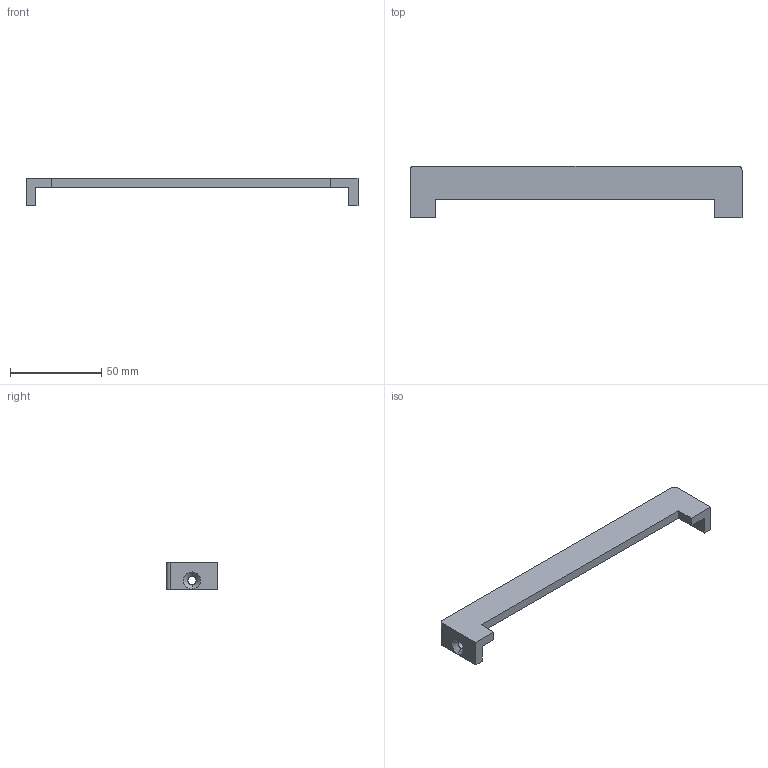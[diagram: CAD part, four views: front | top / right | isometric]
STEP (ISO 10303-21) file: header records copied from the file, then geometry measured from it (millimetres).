
FILE_DESCRIPTION (( 'STEP AP214' ), '1' );
FILE_NAME ('õ4.STEP', '2026-01-21T22:04:48', ( '' ), ( '' ), 'SwSTEP 2.0', 'SolidWorks 2024', '' );
FILE_SCHEMA (( 'AUTOMOTIVE_DESIGN' ));
Length unit declared in the file: millimetre
Products named in the file (1): х4
Bounding box: 182 x 28 x 15 mm (x, y, z)
Volume: 20329.5 mm3; surface area: 10675.6 mm2
Topology: 1 solids, 1 shells, 24 faces, 62 edges, 40 vertices
Faces by surface type: plane 14, cylinder 6, cone 4
Entity records: 761 total; most frequent: DIRECTION 128, CARTESIAN_POINT 127, ORIENTED_EDGE 124, EDGE_CURVE 62, LINE 46, VECTOR 46, AXIS2_PLACEMENT_3D 41, VERTEX_POINT 40
